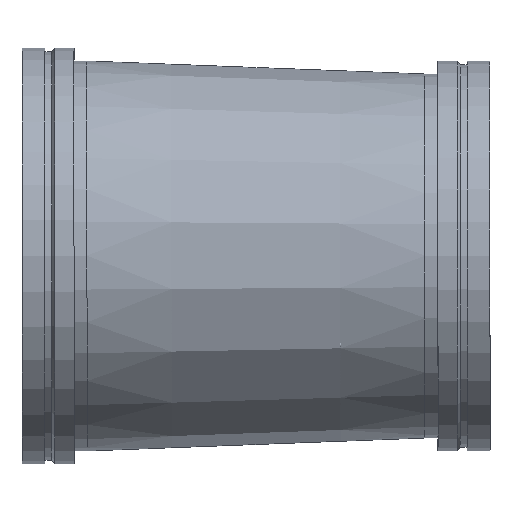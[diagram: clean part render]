
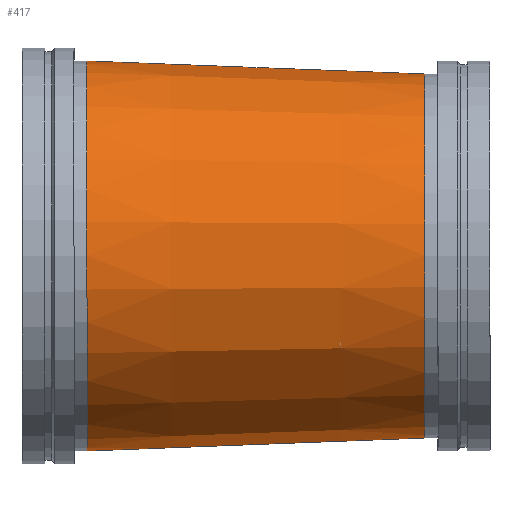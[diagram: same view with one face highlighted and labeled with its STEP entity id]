
A CAD part, top view. The second image highlights one B-rep face of the part: STEP entity #417.
In plain terms, the highlighted conical face has half-angle 2.203 degrees and reference radius 368.3 mm.
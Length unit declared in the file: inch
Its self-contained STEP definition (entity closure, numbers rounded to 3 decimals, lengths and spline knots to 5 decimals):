
#46=CONICAL_SURFACE('',#475,14.5,0.038);
#54=LINE('',#739,#68);
#68=VECTOR('',#587,14.5);
#101=FACE_OUTER_BOUND('',#124,.T.);
#124=EDGE_LOOP('',(#315,#316,#317,#318,#319,#320));
#155=CIRCLE('',#473,15.);
#156=CIRCLE('',#474,15.);
#157=CIRCLE('',#476,14.);
#158=CIRCLE('',#477,14.);
#195=VERTEX_POINT('',#729);
#196=VERTEX_POINT('',#730);
#197=VERTEX_POINT('',#735);
#198=VERTEX_POINT('',#736);
#239=EDGE_CURVE('',#195,#196,#155,.T.);
#240=EDGE_CURVE('',#196,#195,#156,.T.);
#242=EDGE_CURVE('',#197,#198,#157,.T.);
#243=EDGE_CURVE('',#198,#197,#158,.T.);
#244=EDGE_CURVE('',#198,#196,#54,.T.);
#315=ORIENTED_EDGE('',*,*,#242,.F.);
#316=ORIENTED_EDGE('',*,*,#243,.F.);
#317=ORIENTED_EDGE('',*,*,#244,.T.);
#318=ORIENTED_EDGE('',*,*,#240,.T.);
#319=ORIENTED_EDGE('',*,*,#239,.T.);
#320=ORIENTED_EDGE('',*,*,#244,.F.);
#417=ADVANCED_FACE('',(#101),#46,.T.);
#473=AXIS2_PLACEMENT_3D('',#731,#576,#577);
#474=AXIS2_PLACEMENT_3D('',#732,#578,#579);
#475=AXIS2_PLACEMENT_3D('',#734,#581,#582);
#476=AXIS2_PLACEMENT_3D('',#737,#583,#584);
#477=AXIS2_PLACEMENT_3D('',#738,#585,#586);
#576=DIRECTION('center_axis',(1.,0.,0.));
#577=DIRECTION('ref_axis',(0.,0.,-1.));
#578=DIRECTION('center_axis',(1.,0.,0.));
#579=DIRECTION('ref_axis',(0.,0.,-1.));
#581=DIRECTION('center_axis',(-1.,0.,0.));
#582=DIRECTION('ref_axis',(0.,1.,0.));
#583=DIRECTION('center_axis',(1.,0.,0.));
#584=DIRECTION('ref_axis',(0.,0.,-1.));
#585=DIRECTION('center_axis',(1.,0.,0.));
#586=DIRECTION('ref_axis',(0.,0.,-1.));
#587=DIRECTION('',(-0.999,-0.038,0.));
#729=CARTESIAN_POINT('',(5.,15.,0.));
#730=CARTESIAN_POINT('',(5.,-15.,0.));
#731=CARTESIAN_POINT('Origin',(5.,0.,0.));
#732=CARTESIAN_POINT('Origin',(5.,0.,0.));
#734=CARTESIAN_POINT('Origin',(18.,0.,0.));
#735=CARTESIAN_POINT('',(31.,14.,0.));
#736=CARTESIAN_POINT('',(31.,-14.,0.));
#737=CARTESIAN_POINT('Origin',(31.,0.,0.));
#738=CARTESIAN_POINT('Origin',(31.,0.,0.));
#739=CARTESIAN_POINT('',(18.,-14.5,0.));
